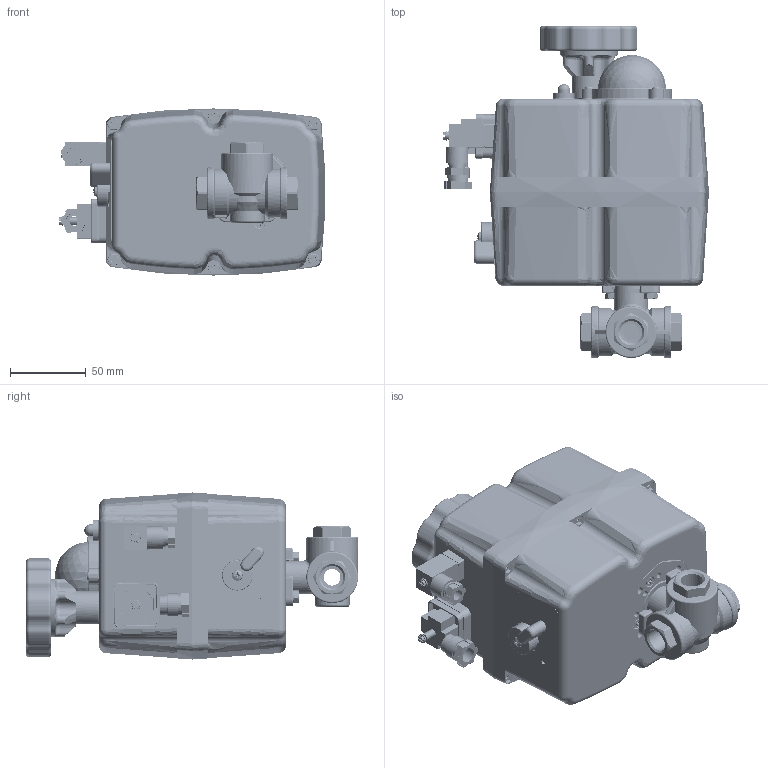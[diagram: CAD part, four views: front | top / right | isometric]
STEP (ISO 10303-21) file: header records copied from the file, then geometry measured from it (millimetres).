
FILE_DESCRIPTION((''),'2;1');
FILE_NAME('P:\CAD Daten\TA-Produkte\angetriebene Armaturen\Register 9\RB_3500_3600\3500010TS20.stp','2024-07-03T14:26:56',('Gi'),(''),'Autodesk Inventor 2012','Autodesk Inventor 2012','');
FILE_SCHEMA(('CONFIG_CONTROL_DESIGN'));
Length unit declared in the file: millimetre
Products named in the file (1): 3500010TS20
Bounding box: 174.98 x 218.5 x 110 mm (x, y, z)
Volume: 17354.7 mm3; surface area: 261369 mm2
Topology: 34 solids, 39 shells, 3529 faces, 9096 edges, 5661 vertices
Faces by surface type: plane 1286, cylinder 972, cone 529, torus 422, bspline 211, sphere 109
Full cylindrical faces by diameter (mm): 1.5 x10, 2.5 x4, 3 x46, 3.5 x13, 3.55 x8, 3.75 x2, 3.8 x1, 3.9 x8, 3.96 x8, 4 x32, 4.25 x2, 4.5 x8, 4.7 x4, 4.9 x2, 5 x9, 5.7 x3, 6 x3, 6.4 x4, 6.5 x7, 7 x8, 7.5 x7, 8 x12, 8.05 x1, 8.1 x1, 9 x2, 10 x3, 10.2 x1, 10.5 x1, 10.75 x1, 10.999 x1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
Entity records: 144563 total; most frequent: CARTESIAN_POINT 60197, DIRECTION 17176, ORIENTED_EDGE 15906, EDGE_CURVE 7953, AXIS2_PLACEMENT_3D 6959, VERTEX_POINT 5419, EDGE_LOOP 4583, CIRCLE 3530
